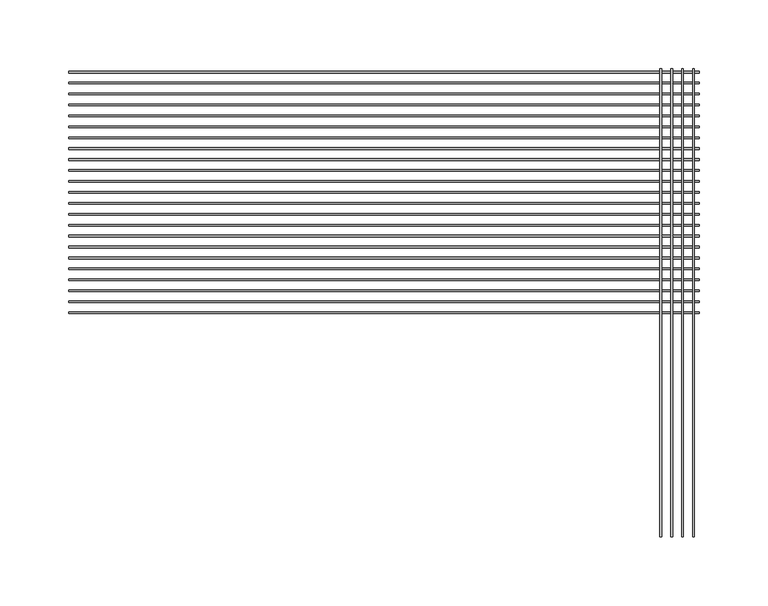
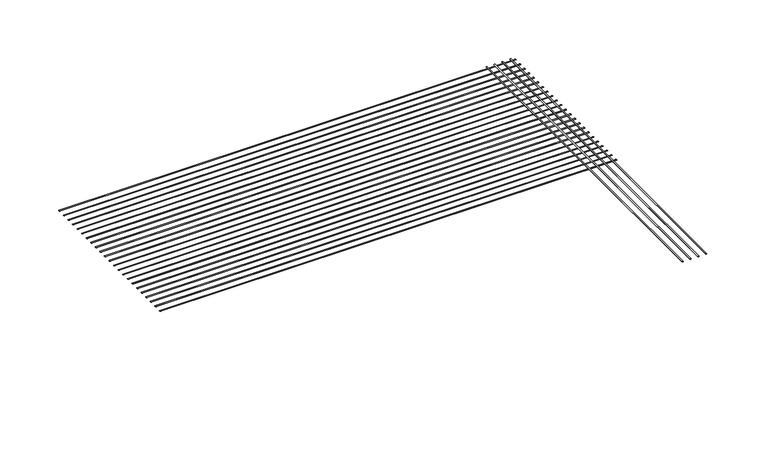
"""IFC4 building model written with IfcOpenShell, lengths in millimetres: proxy geometry, CRAi Generic Model Mesh Piece Face Based : Wider Mesh."""

from ifc_helpers import new_model, si_unit, point, frame, origin, place, context, project, spatial, ellipse_curve, trimmed, source, transform, mapped, element, save
from ifc_brep_helpers import plane_surface, extruded_surface, advanced_brep


def generic_models_8121e3b1(model_context):
    return source(origin(), model_context, "Body", "AdvancedBrep", [
        advanced_brep(
        [(200.2234375, -169.8625, -2.5796875), (201.4140625, -169.8625, -2.5796875), (200.2234375, 169.8625, -2.5796875), (201.4140625, 169.8625, -2.5796875)],
        [
            (0, 1, ellipse_curve(frame((200.81875, -169.8625, -2.5796875), z_axis=(0.0, -1.0, 0.0), x_axis=(1.0, 0.0, 0.0)), 0.5953125, 0.1984375)),
            (1, 0, ellipse_curve(frame((200.81875, -169.8625, -2.5796875), z_axis=(0.0, -1.0, 0.0), x_axis=(1.0, 0.0, 0.0)), 0.5953125, 0.1984375)),
            (2, 3, ellipse_curve(frame((200.81875, 169.8625, -2.5796875), z_axis=(0.0, 1.0, 0.0), x_axis=(1.0, 0.0, 0.0)), 0.5953125, 0.1984375)),
            (3, 2, ellipse_curve(frame((200.81875, 169.8625, -2.5796875), z_axis=(0.0, 1.0, 0.0), x_axis=(1.0, 0.0, 0.0)), 0.5953125, 0.1984375)),
            (0, 2),
            (3, 1),
        ],
        [
            plane_surface(frame((200.81875, -169.8625, -2.5796875), z_axis=(0.0, -1.0, 0.0), x_axis=(0.0, 0.0, 1.0))),
            plane_surface(frame((200.81875, 169.8625, -2.5796875), z_axis=(0.0, 1.0, 0.0), x_axis=(0.0, 0.0, 1.0))),
            extruded_surface(trimmed(ellipse_curve(frame((200.81875, 169.8625, -2.5796875), z_axis=(0.0, -1.0, 0.0), x_axis=(1.0, 0.0, 0.0)), 0.5953125, 0.1984375), [point((200.2234375, 169.8625, -2.5796875))], [point((201.4140625, 169.8625, -2.5796875))], True, "CARTESIAN"), (0.0, -339.725, 0.0), 339.725),
            extruded_surface(trimmed(ellipse_curve(frame((200.81875, 169.8625, -2.5796875), z_axis=(0.0, -1.0, 0.0), x_axis=(1.0, 0.0, 0.0)), 0.5953125, 0.1984375), [point((201.4140625, 169.8625, -2.5796875))], [point((200.2234375, 169.8625, -2.5796875))], True, "CARTESIAN"), (0.0, -339.725, 0.0), 339.725),
        ],
        [
            (0, [[1, 2]]),
            (1, [[3, 4]]),
            (2, [[-1, 5, -4, 6]]),
            (3, [[-2, -6, -3, -5]]),
        ],
    ),
        advanced_brep(
        [(208.1609375, -169.8625, -2.5796875), (209.3515625, -169.8625, -2.5796875), (208.1609375, 169.8625, -2.5796875), (209.3515625, 169.8625, -2.5796875)],
        [
            (0, 1, ellipse_curve(frame((208.75625, -169.8625, -2.5796875), z_axis=(0.0, -1.0, 0.0), x_axis=(1.0, 0.0, 0.0)), 0.5953125, 0.1984375)),
            (1, 0, ellipse_curve(frame((208.75625, -169.8625, -2.5796875), z_axis=(0.0, -1.0, 0.0), x_axis=(1.0, 0.0, 0.0)), 0.5953125, 0.1984375)),
            (2, 3, ellipse_curve(frame((208.75625, 169.8625, -2.5796875), z_axis=(0.0, 1.0, 0.0), x_axis=(1.0, 0.0, 0.0)), 0.5953125, 0.1984375)),
            (3, 2, ellipse_curve(frame((208.75625, 169.8625, -2.5796875), z_axis=(0.0, 1.0, 0.0), x_axis=(1.0, 0.0, 0.0)), 0.5953125, 0.1984375)),
            (0, 2),
            (3, 1),
        ],
        [
            plane_surface(frame((208.75625, -169.8625, -2.5796875), z_axis=(0.0, -1.0, 0.0), x_axis=(0.0, 0.0, 1.0))),
            plane_surface(frame((208.75625, 169.8625, -2.5796875), z_axis=(0.0, 1.0, 0.0), x_axis=(0.0, 0.0, 1.0))),
            extruded_surface(trimmed(ellipse_curve(frame((208.75625, 169.8625, -2.5796875), z_axis=(0.0, -1.0, 0.0), x_axis=(1.0, 0.0, 0.0)), 0.5953125, 0.1984375), [point((208.1609375, 169.8625, -2.5796875))], [point((209.3515625, 169.8625, -2.5796875))], True, "CARTESIAN"), (0.0, -339.725, 0.0), 339.725),
            extruded_surface(trimmed(ellipse_curve(frame((208.75625, 169.8625, -2.5796875), z_axis=(0.0, -1.0, 0.0), x_axis=(1.0, 0.0, 0.0)), 0.5953125, 0.1984375), [point((209.3515625, 169.8625, -2.5796875))], [point((208.1609375, 169.8625, -2.5796875))], True, "CARTESIAN"), (0.0, -339.725, 0.0), 339.725),
        ],
        [
            (0, [[1, 2]]),
            (1, [[3, 4]]),
            (2, [[-1, 5, -4, 6]]),
            (3, [[-2, -6, -3, -5]]),
        ],
    ),
        advanced_brep(
        [(216.0984375, -169.8625, -2.5796875), (217.2890625, -169.8625, -2.5796875), (216.0984375, 169.8625, -2.5796875), (217.2890625, 169.8625, -2.5796875)],
        [
            (0, 1, ellipse_curve(frame((216.69375, -169.8625, -2.5796875), z_axis=(0.0, -1.0, 0.0), x_axis=(1.0, 0.0, 0.0)), 0.5953125, 0.1984375)),
            (1, 0, ellipse_curve(frame((216.69375, -169.8625, -2.5796875), z_axis=(0.0, -1.0, 0.0), x_axis=(1.0, 0.0, 0.0)), 0.5953125, 0.1984375)),
            (2, 3, ellipse_curve(frame((216.69375, 169.8625, -2.5796875), z_axis=(0.0, 1.0, 0.0), x_axis=(1.0, 0.0, 0.0)), 0.5953125, 0.1984375)),
            (3, 2, ellipse_curve(frame((216.69375, 169.8625, -2.5796875), z_axis=(0.0, 1.0, 0.0), x_axis=(1.0, 0.0, 0.0)), 0.5953125, 0.1984375)),
            (0, 2),
            (3, 1),
        ],
        [
            plane_surface(frame((216.69375, -169.8625, -2.5796875), z_axis=(0.0, -1.0, 0.0), x_axis=(0.0, 0.0, 1.0))),
            plane_surface(frame((216.69375, 169.8625, -2.5796875), z_axis=(0.0, 1.0, 0.0), x_axis=(0.0, 0.0, 1.0))),
            extruded_surface(trimmed(ellipse_curve(frame((216.69375, 169.8625, -2.5796875), z_axis=(0.0, -1.0, 0.0), x_axis=(1.0, 0.0, 0.0)), 0.5953125, 0.1984375), [point((216.0984375, 169.8625, -2.5796875))], [point((217.2890625, 169.8625, -2.5796875))], True, "CARTESIAN"), (0.0, -339.725, 0.0), 339.725),
            extruded_surface(trimmed(ellipse_curve(frame((216.69375, 169.8625, -2.5796875), z_axis=(0.0, -1.0, 0.0), x_axis=(1.0, 0.0, 0.0)), 0.5953125, 0.1984375), [point((217.2890625, 169.8625, -2.5796875))], [point((216.0984375, 169.8625, -2.5796875))], True, "CARTESIAN"), (0.0, -339.725, 0.0), 339.725),
        ],
        [
            (0, [[1, 2]]),
            (1, [[3, 4]]),
            (2, [[-1, 5, -4, 6]]),
            (3, [[-2, -6, -3, -5]]),
        ],
    ),
        advanced_brep(
        [(224.0359375, -169.8625, -2.5796875), (225.2265625, -169.8625, -2.5796875), (224.0359375, 169.8625, -2.5796875), (225.2265625, 169.8625, -2.5796875)],
        [
            (0, 1, ellipse_curve(frame((224.63125, -169.8625, -2.5796875), z_axis=(0.0, -1.0, 0.0), x_axis=(1.0, 0.0, 0.0)), 0.5953125, 0.1984375)),
            (1, 0, ellipse_curve(frame((224.63125, -169.8625, -2.5796875), z_axis=(0.0, -1.0, 0.0), x_axis=(1.0, 0.0, 0.0)), 0.5953125, 0.1984375)),
            (2, 3, ellipse_curve(frame((224.63125, 169.8625, -2.5796875), z_axis=(0.0, 1.0, 0.0), x_axis=(1.0, 0.0, 0.0)), 0.5953125, 0.1984375)),
            (3, 2, ellipse_curve(frame((224.63125, 169.8625, -2.5796875), z_axis=(0.0, 1.0, 0.0), x_axis=(1.0, 0.0, 0.0)), 0.5953125, 0.1984375)),
            (0, 2),
            (3, 1),
        ],
        [
            plane_surface(frame((224.63125, -169.8625, -2.5796875), z_axis=(0.0, -1.0, 0.0), x_axis=(0.0, 0.0, 1.0))),
            plane_surface(frame((224.63125, 169.8625, -2.5796875), z_axis=(0.0, 1.0, 0.0), x_axis=(0.0, 0.0, 1.0))),
            extruded_surface(trimmed(ellipse_curve(frame((224.63125, 169.8625, -2.5796875), z_axis=(0.0, -1.0, 0.0), x_axis=(1.0, 0.0, 0.0)), 0.5953125, 0.1984375), [point((224.0359375, 169.8625, -2.5796875))], [point((225.2265625, 169.8625, -2.5796875))], True, "CARTESIAN"), (0.0, -339.725, 0.0), 339.725),
            extruded_surface(trimmed(ellipse_curve(frame((224.63125, 169.8625, -2.5796875), z_axis=(0.0, -1.0, 0.0), x_axis=(1.0, 0.0, 0.0)), 0.5953125, 0.1984375), [point((225.2265625, 169.8625, -2.5796875))], [point((224.0359375, 169.8625, -2.5796875))], True, "CARTESIAN"), (0.0, -339.725, 0.0), 339.725),
        ],
        [
            (0, [[1, 2]]),
            (1, [[3, 4]]),
            (2, [[-1, 5, -4, 6]]),
            (3, [[-2, -6, -3, -5]]),
        ],
    ),
        advanced_brep(
        [(-228.6, 168.0765625, -2.9765625), (-228.6, 166.8859375, -2.9765625), (228.6, 168.0765625, -2.9765625), (228.6, 166.8859375, -2.9765625)],
        [
            (0, 1, ellipse_curve(frame((-228.6, 167.48125, -2.9765625), z_axis=(-1.0, 0.0, 0.0), x_axis=(0.0, -1.0, 0.0)), 0.5953125, 0.1984375)),
            (1, 0, ellipse_curve(frame((-228.6, 167.48125, -2.9765625), z_axis=(-1.0, 0.0, 0.0), x_axis=(0.0, -1.0, 0.0)), 0.5953125, 0.1984375)),
            (2, 3, ellipse_curve(frame((228.6, 167.48125, -2.9765625), z_axis=(1.0, 0.0, 0.0), x_axis=(0.0, -1.0, 0.0)), 0.5953125, 0.1984375)),
            (3, 2, ellipse_curve(frame((228.6, 167.48125, -2.9765625), z_axis=(1.0, 0.0, 0.0), x_axis=(0.0, -1.0, 0.0)), 0.5953125, 0.1984375)),
            (0, 2),
            (3, 1),
        ],
        [
            plane_surface(frame((-228.6, 167.48125, -2.9765625), z_axis=(-1.0, 0.0, 0.0), x_axis=(0.0, 0.0, 1.0))),
            plane_surface(frame((228.6, 167.48125, -2.9765625), z_axis=(1.0, 0.0, 0.0), x_axis=(0.0, 0.0, 1.0))),
            extruded_surface(trimmed(ellipse_curve(frame((228.6, 167.48125, -2.9765625), z_axis=(-1.0, 0.0, 0.0), x_axis=(0.0, -1.0, 0.0)), 0.5953125, 0.1984375), [point((228.6, 168.0765625, -2.9765625))], [point((228.6, 166.8859375, -2.9765625))], True, "CARTESIAN"), (-457.2, 0.0, 0.0), 457.2),
            extruded_surface(trimmed(ellipse_curve(frame((228.6, 167.48125, -2.9765625), z_axis=(-1.0, 0.0, 0.0), x_axis=(0.0, -1.0, 0.0)), 0.5953125, 0.1984375), [point((228.6, 166.8859375, -2.9765625))], [point((228.6, 168.0765625, -2.9765625))], True, "CARTESIAN"), (-457.2, 0.0, 0.0), 457.2),
        ],
        [
            (0, [[1, 2]]),
            (1, [[3, 4]]),
            (2, [[-1, 5, -4, 6]]),
            (3, [[-2, -6, -3, -5]]),
        ],
    ),
        advanced_brep(
        [(-228.6, 160.1390625, -2.9765625), (-228.6, 158.9484375, -2.9765625), (228.6, 160.1390625, -2.9765625), (228.6, 158.9484375, -2.9765625)],
        [
            (0, 1, ellipse_curve(frame((-228.6, 159.54375, -2.9765625), z_axis=(-1.0, 0.0, 0.0), x_axis=(0.0, -1.0, 0.0)), 0.5953125, 0.1984375)),
            (1, 0, ellipse_curve(frame((-228.6, 159.54375, -2.9765625), z_axis=(-1.0, 0.0, 0.0), x_axis=(0.0, -1.0, 0.0)), 0.5953125, 0.1984375)),
            (2, 3, ellipse_curve(frame((228.6, 159.54375, -2.9765625), z_axis=(1.0, 0.0, 0.0), x_axis=(0.0, -1.0, 0.0)), 0.5953125, 0.1984375)),
            (3, 2, ellipse_curve(frame((228.6, 159.54375, -2.9765625), z_axis=(1.0, 0.0, 0.0), x_axis=(0.0, -1.0, 0.0)), 0.5953125, 0.1984375)),
            (0, 2),
            (3, 1),
        ],
        [
            plane_surface(frame((-228.6, 159.54375, -2.9765625), z_axis=(-1.0, 0.0, 0.0), x_axis=(0.0, 0.0, 1.0))),
            plane_surface(frame((228.6, 159.54375, -2.9765625), z_axis=(1.0, 0.0, 0.0), x_axis=(0.0, 0.0, 1.0))),
            extruded_surface(trimmed(ellipse_curve(frame((228.6, 159.54375, -2.9765625), z_axis=(-1.0, 0.0, 0.0), x_axis=(0.0, -1.0, 0.0)), 0.5953125, 0.1984375), [point((228.6, 160.1390625, -2.9765625))], [point((228.6, 158.9484375, -2.9765625))], True, "CARTESIAN"), (-457.2, 0.0, 0.0), 457.2),
            extruded_surface(trimmed(ellipse_curve(frame((228.6, 159.54375, -2.9765625), z_axis=(-1.0, 0.0, 0.0), x_axis=(0.0, -1.0, 0.0)), 0.5953125, 0.1984375), [point((228.6, 158.9484375, -2.9765625))], [point((228.6, 160.1390625, -2.9765625))], True, "CARTESIAN"), (-457.2, 0.0, 0.0), 457.2),
        ],
        [
            (0, [[1, 2]]),
            (1, [[3, 4]]),
            (2, [[-1, 5, -4, 6]]),
            (3, [[-2, -6, -3, -5]]),
        ],
    ),
        advanced_brep(
        [(-228.6, 152.2015625, -2.9765625), (-228.6, 151.0109375, -2.9765625), (228.6, 152.2015625, -2.9765625), (228.6, 151.0109375, -2.9765625)],
        [
            (0, 1, ellipse_curve(frame((-228.6, 151.60625, -2.9765625), z_axis=(-1.0, 0.0, 0.0), x_axis=(0.0, -1.0, 0.0)), 0.5953125, 0.1984375)),
            (1, 0, ellipse_curve(frame((-228.6, 151.60625, -2.9765625), z_axis=(-1.0, 0.0, 0.0), x_axis=(0.0, -1.0, 0.0)), 0.5953125, 0.1984375)),
            (2, 3, ellipse_curve(frame((228.6, 151.60625, -2.9765625), z_axis=(1.0, 0.0, 0.0), x_axis=(0.0, -1.0, 0.0)), 0.5953125, 0.1984375)),
            (3, 2, ellipse_curve(frame((228.6, 151.60625, -2.9765625), z_axis=(1.0, 0.0, 0.0), x_axis=(0.0, -1.0, 0.0)), 0.5953125, 0.1984375)),
            (0, 2),
            (3, 1),
        ],
        [
            plane_surface(frame((-228.6, 151.60625, -2.9765625), z_axis=(-1.0, 0.0, 0.0), x_axis=(0.0, 0.0, 1.0))),
            plane_surface(frame((228.6, 151.60625, -2.9765625), z_axis=(1.0, 0.0, 0.0), x_axis=(0.0, 0.0, 1.0))),
            extruded_surface(trimmed(ellipse_curve(frame((228.6, 151.60625, -2.9765625), z_axis=(-1.0, 0.0, 0.0), x_axis=(0.0, -1.0, 0.0)), 0.5953125, 0.1984375), [point((228.6, 152.2015625, -2.9765625))], [point((228.6, 151.0109375, -2.9765625))], True, "CARTESIAN"), (-457.2, 0.0, 0.0), 457.2),
            extruded_surface(trimmed(ellipse_curve(frame((228.6, 151.60625, -2.9765625), z_axis=(-1.0, 0.0, 0.0), x_axis=(0.0, -1.0, 0.0)), 0.5953125, 0.1984375), [point((228.6, 151.0109375, -2.9765625))], [point((228.6, 152.2015625, -2.9765625))], True, "CARTESIAN"), (-457.2, 0.0, 0.0), 457.2),
        ],
        [
            (0, [[1, 2]]),
            (1, [[3, 4]]),
            (2, [[-1, 5, -4, 6]]),
            (3, [[-2, -6, -3, -5]]),
        ],
    ),
        advanced_brep(
        [(-228.6, 144.2640625, -2.9765625), (-228.6, 143.0734375, -2.9765625), (228.6, 144.2640625, -2.9765625), (228.6, 143.0734375, -2.9765625)],
        [
            (0, 1, ellipse_curve(frame((-228.6, 143.66875, -2.9765625), z_axis=(-1.0, 0.0, 0.0), x_axis=(0.0, -1.0, 0.0)), 0.5953125, 0.1984375)),
            (1, 0, ellipse_curve(frame((-228.6, 143.66875, -2.9765625), z_axis=(-1.0, 0.0, 0.0), x_axis=(0.0, -1.0, 0.0)), 0.5953125, 0.1984375)),
            (2, 3, ellipse_curve(frame((228.6, 143.66875, -2.9765625), z_axis=(1.0, 0.0, 0.0), x_axis=(0.0, -1.0, 0.0)), 0.5953125, 0.1984375)),
            (3, 2, ellipse_curve(frame((228.6, 143.66875, -2.9765625), z_axis=(1.0, 0.0, 0.0), x_axis=(0.0, -1.0, 0.0)), 0.5953125, 0.1984375)),
            (0, 2),
            (3, 1),
        ],
        [
            plane_surface(frame((-228.6, 143.66875, -2.9765625), z_axis=(-1.0, 0.0, 0.0), x_axis=(0.0, 0.0, 1.0))),
            plane_surface(frame((228.6, 143.66875, -2.9765625), z_axis=(1.0, 0.0, 0.0), x_axis=(0.0, 0.0, 1.0))),
            extruded_surface(trimmed(ellipse_curve(frame((228.6, 143.66875, -2.9765625), z_axis=(-1.0, 0.0, 0.0), x_axis=(0.0, -1.0, 0.0)), 0.5953125, 0.1984375), [point((228.6, 144.2640625, -2.9765625))], [point((228.6, 143.0734375, -2.9765625))], True, "CARTESIAN"), (-457.2, 0.0, 0.0), 457.2),
            extruded_surface(trimmed(ellipse_curve(frame((228.6, 143.66875, -2.9765625), z_axis=(-1.0, 0.0, 0.0), x_axis=(0.0, -1.0, 0.0)), 0.5953125, 0.1984375), [point((228.6, 143.0734375, -2.9765625))], [point((228.6, 144.2640625, -2.9765625))], True, "CARTESIAN"), (-457.2, 0.0, 0.0), 457.2),
        ],
        [
            (0, [[1, 2]]),
            (1, [[3, 4]]),
            (2, [[-1, 5, -4, 6]]),
            (3, [[-2, -6, -3, -5]]),
        ],
    ),
        advanced_brep(
        [(-228.6, 136.3265625, -2.9765625), (-228.6, 135.1359375, -2.9765625), (228.6, 136.3265625, -2.9765625), (228.6, 135.1359375, -2.9765625)],
        [
            (0, 1, ellipse_curve(frame((-228.6, 135.73125, -2.9765625), z_axis=(-1.0, 0.0, 0.0), x_axis=(0.0, -1.0, 0.0)), 0.5953125, 0.1984375)),
            (1, 0, ellipse_curve(frame((-228.6, 135.73125, -2.9765625), z_axis=(-1.0, 0.0, 0.0), x_axis=(0.0, -1.0, 0.0)), 0.5953125, 0.1984375)),
            (2, 3, ellipse_curve(frame((228.6, 135.73125, -2.9765625), z_axis=(1.0, 0.0, 0.0), x_axis=(0.0, -1.0, 0.0)), 0.5953125, 0.1984375)),
            (3, 2, ellipse_curve(frame((228.6, 135.73125, -2.9765625), z_axis=(1.0, 0.0, 0.0), x_axis=(0.0, -1.0, 0.0)), 0.5953125, 0.1984375)),
            (0, 2),
            (3, 1),
        ],
        [
            plane_surface(frame((-228.6, 135.73125, -2.9765625), z_axis=(-1.0, 0.0, 0.0), x_axis=(0.0, 0.0, 1.0))),
            plane_surface(frame((228.6, 135.73125, -2.9765625), z_axis=(1.0, 0.0, 0.0), x_axis=(0.0, 0.0, 1.0))),
            extruded_surface(trimmed(ellipse_curve(frame((228.6, 135.73125, -2.9765625), z_axis=(-1.0, 0.0, 0.0), x_axis=(0.0, -1.0, 0.0)), 0.5953125, 0.1984375), [point((228.6, 136.3265625, -2.9765625))], [point((228.6, 135.1359375, -2.9765625))], True, "CARTESIAN"), (-457.2, 0.0, 0.0), 457.2),
            extruded_surface(trimmed(ellipse_curve(frame((228.6, 135.73125, -2.9765625), z_axis=(-1.0, 0.0, 0.0), x_axis=(0.0, -1.0, 0.0)), 0.5953125, 0.1984375), [point((228.6, 135.1359375, -2.9765625))], [point((228.6, 136.3265625, -2.9765625))], True, "CARTESIAN"), (-457.2, 0.0, 0.0), 457.2),
        ],
        [
            (0, [[1, 2]]),
            (1, [[3, 4]]),
            (2, [[-1, 5, -4, 6]]),
            (3, [[-2, -6, -3, -5]]),
        ],
    ),
        advanced_brep(
        [(-228.6, 128.3890625, -2.9765625), (-228.6, 127.1984375, -2.9765625), (228.6, 128.3890625, -2.9765625), (228.6, 127.1984375, -2.9765625)],
        [
            (0, 1, ellipse_curve(frame((-228.6, 127.79375, -2.9765625), z_axis=(-1.0, 0.0, 0.0), x_axis=(0.0, -1.0, 0.0)), 0.5953125, 0.1984375)),
            (1, 0, ellipse_curve(frame((-228.6, 127.79375, -2.9765625), z_axis=(-1.0, 0.0, 0.0), x_axis=(0.0, -1.0, 0.0)), 0.5953125, 0.1984375)),
            (2, 3, ellipse_curve(frame((228.6, 127.79375, -2.9765625), z_axis=(1.0, 0.0, 0.0), x_axis=(0.0, -1.0, 0.0)), 0.5953125, 0.1984375)),
            (3, 2, ellipse_curve(frame((228.6, 127.79375, -2.9765625), z_axis=(1.0, 0.0, 0.0), x_axis=(0.0, -1.0, 0.0)), 0.5953125, 0.1984375)),
            (0, 2),
            (3, 1),
        ],
        [
            plane_surface(frame((-228.6, 127.79375, -2.9765625), z_axis=(-1.0, 0.0, 0.0), x_axis=(0.0, 0.0, 1.0))),
            plane_surface(frame((228.6, 127.79375, -2.9765625), z_axis=(1.0, 0.0, 0.0), x_axis=(0.0, 0.0, 1.0))),
            extruded_surface(trimmed(ellipse_curve(frame((228.6, 127.79375, -2.9765625), z_axis=(-1.0, 0.0, 0.0), x_axis=(0.0, -1.0, 0.0)), 0.5953125, 0.1984375), [point((228.6, 128.3890625, -2.9765625))], [point((228.6, 127.1984375, -2.9765625))], True, "CARTESIAN"), (-457.2, 0.0, 0.0), 457.2),
            extruded_surface(trimmed(ellipse_curve(frame((228.6, 127.79375, -2.9765625), z_axis=(-1.0, 0.0, 0.0), x_axis=(0.0, -1.0, 0.0)), 0.5953125, 0.1984375), [point((228.6, 127.1984375, -2.9765625))], [point((228.6, 128.3890625, -2.9765625))], True, "CARTESIAN"), (-457.2, 0.0, 0.0), 457.2),
        ],
        [
            (0, [[1, 2]]),
            (1, [[3, 4]]),
            (2, [[-1, 5, -4, 6]]),
            (3, [[-2, -6, -3, -5]]),
        ],
    ),
        advanced_brep(
        [(-228.6, 120.4515625, -2.9765625), (-228.6, 119.2609375, -2.9765625), (228.6, 120.4515625, -2.9765625), (228.6, 119.2609375, -2.9765625)],
        [
            (0, 1, ellipse_curve(frame((-228.6, 119.85625, -2.9765625), z_axis=(-1.0, 0.0, 0.0), x_axis=(0.0, -1.0, 0.0)), 0.5953125, 0.1984375)),
            (1, 0, ellipse_curve(frame((-228.6, 119.85625, -2.9765625), z_axis=(-1.0, 0.0, 0.0), x_axis=(0.0, -1.0, 0.0)), 0.5953125, 0.1984375)),
            (2, 3, ellipse_curve(frame((228.6, 119.85625, -2.9765625), z_axis=(1.0, 0.0, 0.0), x_axis=(0.0, -1.0, 0.0)), 0.5953125, 0.1984375)),
            (3, 2, ellipse_curve(frame((228.6, 119.85625, -2.9765625), z_axis=(1.0, 0.0, 0.0), x_axis=(0.0, -1.0, 0.0)), 0.5953125, 0.1984375)),
            (0, 2),
            (3, 1),
        ],
        [
            plane_surface(frame((-228.6, 119.85625, -2.9765625), z_axis=(-1.0, 0.0, 0.0), x_axis=(0.0, 0.0, 1.0))),
            plane_surface(frame((228.6, 119.85625, -2.9765625), z_axis=(1.0, 0.0, 0.0), x_axis=(0.0, 0.0, 1.0))),
            extruded_surface(trimmed(ellipse_curve(frame((228.6, 119.85625, -2.9765625), z_axis=(-1.0, 0.0, 0.0), x_axis=(0.0, -1.0, 0.0)), 0.5953125, 0.1984375), [point((228.6, 120.4515625, -2.9765625))], [point((228.6, 119.2609375, -2.9765625))], True, "CARTESIAN"), (-457.2, 0.0, 0.0), 457.2),
            extruded_surface(trimmed(ellipse_curve(frame((228.6, 119.85625, -2.9765625), z_axis=(-1.0, 0.0, 0.0), x_axis=(0.0, -1.0, 0.0)), 0.5953125, 0.1984375), [point((228.6, 119.2609375, -2.9765625))], [point((228.6, 120.4515625, -2.9765625))], True, "CARTESIAN"), (-457.2, 0.0, 0.0), 457.2),
        ],
        [
            (0, [[1, 2]]),
            (1, [[3, 4]]),
            (2, [[-1, 5, -4, 6]]),
            (3, [[-2, -6, -3, -5]]),
        ],
    ),
        advanced_brep(
        [(-228.6, 112.5140625, -2.9765625), (-228.6, 111.3234375, -2.9765625), (228.6, 112.5140625, -2.9765625), (228.6, 111.3234375, -2.9765625)],
        [
            (0, 1, ellipse_curve(frame((-228.6, 111.91875, -2.9765625), z_axis=(-1.0, 0.0, 0.0), x_axis=(0.0, -1.0, 0.0)), 0.5953125, 0.1984375)),
            (1, 0, ellipse_curve(frame((-228.6, 111.91875, -2.9765625), z_axis=(-1.0, 0.0, 0.0), x_axis=(0.0, -1.0, 0.0)), 0.5953125, 0.1984375)),
            (2, 3, ellipse_curve(frame((228.6, 111.91875, -2.9765625), z_axis=(1.0, 0.0, 0.0), x_axis=(0.0, -1.0, 0.0)), 0.5953125, 0.1984375)),
            (3, 2, ellipse_curve(frame((228.6, 111.91875, -2.9765625), z_axis=(1.0, 0.0, 0.0), x_axis=(0.0, -1.0, 0.0)), 0.5953125, 0.1984375)),
            (0, 2),
            (3, 1),
        ],
        [
            plane_surface(frame((-228.6, 111.91875, -2.9765625), z_axis=(-1.0, 0.0, 0.0), x_axis=(0.0, 0.0, 1.0))),
            plane_surface(frame((228.6, 111.91875, -2.9765625), z_axis=(1.0, 0.0, 0.0), x_axis=(0.0, 0.0, 1.0))),
            extruded_surface(trimmed(ellipse_curve(frame((228.6, 111.91875, -2.9765625), z_axis=(-1.0, 0.0, 0.0), x_axis=(0.0, -1.0, 0.0)), 0.5953125, 0.1984375), [point((228.6, 112.5140625, -2.9765625))], [point((228.6, 111.3234375, -2.9765625))], True, "CARTESIAN"), (-457.2, 0.0, 0.0), 457.2),
            extruded_surface(trimmed(ellipse_curve(frame((228.6, 111.91875, -2.9765625), z_axis=(-1.0, 0.0, 0.0), x_axis=(0.0, -1.0, 0.0)), 0.5953125, 0.1984375), [point((228.6, 111.3234375, -2.9765625))], [point((228.6, 112.5140625, -2.9765625))], True, "CARTESIAN"), (-457.2, 0.0, 0.0), 457.2),
        ],
        [
            (0, [[1, 2]]),
            (1, [[3, 4]]),
            (2, [[-1, 5, -4, 6]]),
            (3, [[-2, -6, -3, -5]]),
        ],
    ),
        advanced_brep(
        [(-228.6, 104.5765625, -2.9765625), (-228.6, 103.3859375, -2.9765625), (228.6, 104.5765625, -2.9765625), (228.6, 103.3859375, -2.9765625)],
        [
            (0, 1, ellipse_curve(frame((-228.6, 103.98125, -2.9765625), z_axis=(-1.0, 0.0, 0.0), x_axis=(0.0, -1.0, 0.0)), 0.5953125, 0.1984375)),
            (1, 0, ellipse_curve(frame((-228.6, 103.98125, -2.9765625), z_axis=(-1.0, 0.0, 0.0), x_axis=(0.0, -1.0, 0.0)), 0.5953125, 0.1984375)),
            (2, 3, ellipse_curve(frame((228.6, 103.98125, -2.9765625), z_axis=(1.0, 0.0, 0.0), x_axis=(0.0, -1.0, 0.0)), 0.5953125, 0.1984375)),
            (3, 2, ellipse_curve(frame((228.6, 103.98125, -2.9765625), z_axis=(1.0, 0.0, 0.0), x_axis=(0.0, -1.0, 0.0)), 0.5953125, 0.1984375)),
            (0, 2),
            (3, 1),
        ],
        [
            plane_surface(frame((-228.6, 103.98125, -2.9765625), z_axis=(-1.0, 0.0, 0.0), x_axis=(0.0, 0.0, 1.0))),
            plane_surface(frame((228.6, 103.98125, -2.9765625), z_axis=(1.0, 0.0, 0.0), x_axis=(0.0, 0.0, 1.0))),
            extruded_surface(trimmed(ellipse_curve(frame((228.6, 103.98125, -2.9765625), z_axis=(-1.0, 0.0, 0.0), x_axis=(0.0, -1.0, 0.0)), 0.5953125, 0.1984375), [point((228.6, 104.5765625, -2.9765625))], [point((228.6, 103.3859375, -2.9765625))], True, "CARTESIAN"), (-457.2, 0.0, 0.0), 457.2),
            extruded_surface(trimmed(ellipse_curve(frame((228.6, 103.98125, -2.9765625), z_axis=(-1.0, 0.0, 0.0), x_axis=(0.0, -1.0, 0.0)), 0.5953125, 0.1984375), [point((228.6, 103.3859375, -2.9765625))], [point((228.6, 104.5765625, -2.9765625))], True, "CARTESIAN"), (-457.2, 0.0, 0.0), 457.2),
        ],
        [
            (0, [[1, 2]]),
            (1, [[3, 4]]),
            (2, [[-1, 5, -4, 6]]),
            (3, [[-2, -6, -3, -5]]),
        ],
    ),
        advanced_brep(
        [(-228.6, 96.6390625, -2.9765625), (-228.6, 95.4484375, -2.9765625), (228.6, 96.6390625, -2.9765625), (228.6, 95.4484375, -2.9765625)],
        [
            (0, 1, ellipse_curve(frame((-228.6, 96.04375, -2.9765625), z_axis=(-1.0, 0.0, 0.0), x_axis=(0.0, -1.0, 0.0)), 0.5953125, 0.1984375)),
            (1, 0, ellipse_curve(frame((-228.6, 96.04375, -2.9765625), z_axis=(-1.0, 0.0, 0.0), x_axis=(0.0, -1.0, 0.0)), 0.5953125, 0.1984375)),
            (2, 3, ellipse_curve(frame((228.6, 96.04375, -2.9765625), z_axis=(1.0, 0.0, 0.0), x_axis=(0.0, -1.0, 0.0)), 0.5953125, 0.1984375)),
            (3, 2, ellipse_curve(frame((228.6, 96.04375, -2.9765625), z_axis=(1.0, 0.0, 0.0), x_axis=(0.0, -1.0, 0.0)), 0.5953125, 0.1984375)),
            (0, 2),
            (3, 1),
        ],
        [
            plane_surface(frame((-228.6, 96.04375, -2.9765625), z_axis=(-1.0, 0.0, 0.0), x_axis=(0.0, 0.0, 1.0))),
            plane_surface(frame((228.6, 96.04375, -2.9765625), z_axis=(1.0, 0.0, 0.0), x_axis=(0.0, 0.0, 1.0))),
            extruded_surface(trimmed(ellipse_curve(frame((228.6, 96.04375, -2.9765625), z_axis=(-1.0, 0.0, 0.0), x_axis=(0.0, -1.0, 0.0)), 0.5953125, 0.1984375), [point((228.6, 96.6390625, -2.9765625))], [point((228.6, 95.4484375, -2.9765625))], True, "CARTESIAN"), (-457.2, 0.0, 0.0), 457.2),
            extruded_surface(trimmed(ellipse_curve(frame((228.6, 96.04375, -2.9765625), z_axis=(-1.0, 0.0, 0.0), x_axis=(0.0, -1.0, 0.0)), 0.5953125, 0.1984375), [point((228.6, 95.4484375, -2.9765625))], [point((228.6, 96.6390625, -2.9765625))], True, "CARTESIAN"), (-457.2, 0.0, 0.0), 457.2),
        ],
        [
            (0, [[1, 2]]),
            (1, [[3, 4]]),
            (2, [[-1, 5, -4, 6]]),
            (3, [[-2, -6, -3, -5]]),
        ],
    ),
        advanced_brep(
        [(-228.6, 88.7015625, -2.9765625), (-228.6, 87.5109375, -2.9765625), (228.6, 88.7015625, -2.9765625), (228.6, 87.5109375, -2.9765625)],
        [
            (0, 1, ellipse_curve(frame((-228.6, 88.10625, -2.9765625), z_axis=(-1.0, 0.0, 0.0), x_axis=(0.0, -1.0, 0.0)), 0.5953125, 0.1984375)),
            (1, 0, ellipse_curve(frame((-228.6, 88.10625, -2.9765625), z_axis=(-1.0, 0.0, 0.0), x_axis=(0.0, -1.0, 0.0)), 0.5953125, 0.1984375)),
            (2, 3, ellipse_curve(frame((228.6, 88.10625, -2.9765625), z_axis=(1.0, 0.0, 0.0), x_axis=(0.0, -1.0, 0.0)), 0.5953125, 0.1984375)),
            (3, 2, ellipse_curve(frame((228.6, 88.10625, -2.9765625), z_axis=(1.0, 0.0, 0.0), x_axis=(0.0, -1.0, 0.0)), 0.5953125, 0.1984375)),
            (0, 2),
            (3, 1),
        ],
        [
            plane_surface(frame((-228.6, 88.10625, -2.9765625), z_axis=(-1.0, 0.0, 0.0), x_axis=(0.0, 0.0, 1.0))),
            plane_surface(frame((228.6, 88.10625, -2.9765625), z_axis=(1.0, 0.0, 0.0), x_axis=(0.0, 0.0, 1.0))),
            extruded_surface(trimmed(ellipse_curve(frame((228.6, 88.10625, -2.9765625), z_axis=(-1.0, 0.0, 0.0), x_axis=(0.0, -1.0, 0.0)), 0.5953125, 0.1984375), [point((228.6, 88.7015625, -2.9765625))], [point((228.6, 87.5109375, -2.9765625))], True, "CARTESIAN"), (-457.2, 0.0, 0.0), 457.2),
            extruded_surface(trimmed(ellipse_curve(frame((228.6, 88.10625, -2.9765625), z_axis=(-1.0, 0.0, 0.0), x_axis=(0.0, -1.0, 0.0)), 0.5953125, 0.1984375), [point((228.6, 87.5109375, -2.9765625))], [point((228.6, 88.7015625, -2.9765625))], True, "CARTESIAN"), (-457.2, 0.0, 0.0), 457.2),
        ],
        [
            (0, [[1, 2]]),
            (1, [[3, 4]]),
            (2, [[-1, 5, -4, 6]]),
            (3, [[-2, -6, -3, -5]]),
        ],
    ),
        advanced_brep(
        [(-228.6, 80.7640625, -2.9765625), (-228.6, 79.5734375, -2.9765625), (228.6, 80.7640625, -2.9765625), (228.6, 79.5734375, -2.9765625)],
        [
            (0, 1, ellipse_curve(frame((-228.6, 80.16875, -2.9765625), z_axis=(-1.0, 0.0, 0.0), x_axis=(0.0, -1.0, 0.0)), 0.5953125, 0.1984375)),
            (1, 0, ellipse_curve(frame((-228.6, 80.16875, -2.9765625), z_axis=(-1.0, 0.0, 0.0), x_axis=(0.0, -1.0, 0.0)), 0.5953125, 0.1984375)),
            (2, 3, ellipse_curve(frame((228.6, 80.16875, -2.9765625), z_axis=(1.0, 0.0, 0.0), x_axis=(0.0, -1.0, 0.0)), 0.5953125, 0.1984375)),
            (3, 2, ellipse_curve(frame((228.6, 80.16875, -2.9765625), z_axis=(1.0, 0.0, 0.0), x_axis=(0.0, -1.0, 0.0)), 0.5953125, 0.1984375)),
            (0, 2),
            (3, 1),
        ],
        [
            plane_surface(frame((-228.6, 80.16875, -2.9765625), z_axis=(-1.0, 0.0, 0.0), x_axis=(0.0, 0.0, 1.0))),
            plane_surface(frame((228.6, 80.16875, -2.9765625), z_axis=(1.0, 0.0, 0.0), x_axis=(0.0, 0.0, 1.0))),
            extruded_surface(trimmed(ellipse_curve(frame((228.6, 80.16875, -2.9765625), z_axis=(-1.0, 0.0, 0.0), x_axis=(0.0, -1.0, 0.0)), 0.5953125, 0.1984375), [point((228.6, 80.7640625, -2.9765625))], [point((228.6, 79.5734375, -2.9765625))], True, "CARTESIAN"), (-457.2, 0.0, 0.0), 457.2),
            extruded_surface(trimmed(ellipse_curve(frame((228.6, 80.16875, -2.9765625), z_axis=(-1.0, 0.0, 0.0), x_axis=(0.0, -1.0, 0.0)), 0.5953125, 0.1984375), [point((228.6, 79.5734375, -2.9765625))], [point((228.6, 80.7640625, -2.9765625))], True, "CARTESIAN"), (-457.2, 0.0, 0.0), 457.2),
        ],
        [
            (0, [[1, 2]]),
            (1, [[3, 4]]),
            (2, [[-1, 5, -4, 6]]),
            (3, [[-2, -6, -3, -5]]),
        ],
    ),
        advanced_brep(
        [(-228.6, 72.8265625, -2.9765625), (-228.6, 71.6359375, -2.9765625), (228.6, 72.8265625, -2.9765625), (228.6, 71.6359375, -2.9765625)],
        [
            (0, 1, ellipse_curve(frame((-228.6, 72.23125, -2.9765625), z_axis=(-1.0, 0.0, 0.0), x_axis=(0.0, -1.0, 0.0)), 0.5953125, 0.1984375)),
            (1, 0, ellipse_curve(frame((-228.6, 72.23125, -2.9765625), z_axis=(-1.0, 0.0, 0.0), x_axis=(0.0, -1.0, 0.0)), 0.5953125, 0.1984375)),
            (2, 3, ellipse_curve(frame((228.6, 72.23125, -2.9765625), z_axis=(1.0, 0.0, 0.0), x_axis=(0.0, -1.0, 0.0)), 0.5953125, 0.1984375)),
            (3, 2, ellipse_curve(frame((228.6, 72.23125, -2.9765625), z_axis=(1.0, 0.0, 0.0), x_axis=(0.0, -1.0, 0.0)), 0.5953125, 0.1984375)),
            (0, 2),
            (3, 1),
        ],
        [
            plane_surface(frame((-228.6, 72.23125, -2.9765625), z_axis=(-1.0, 0.0, 0.0), x_axis=(0.0, 0.0, 1.0))),
            plane_surface(frame((228.6, 72.23125, -2.9765625), z_axis=(1.0, 0.0, 0.0), x_axis=(0.0, 0.0, 1.0))),
            extruded_surface(trimmed(ellipse_curve(frame((228.6, 72.23125, -2.9765625), z_axis=(-1.0, 0.0, 0.0), x_axis=(0.0, -1.0, 0.0)), 0.5953125, 0.1984375), [point((228.6, 72.8265625, -2.9765625))], [point((228.6, 71.6359375, -2.9765625))], True, "CARTESIAN"), (-457.2, 0.0, 0.0), 457.2),
            extruded_surface(trimmed(ellipse_curve(frame((228.6, 72.23125, -2.9765625), z_axis=(-1.0, 0.0, 0.0), x_axis=(0.0, -1.0, 0.0)), 0.5953125, 0.1984375), [point((228.6, 71.6359375, -2.9765625))], [point((228.6, 72.8265625, -2.9765625))], True, "CARTESIAN"), (-457.2, 0.0, 0.0), 457.2),
        ],
        [
            (0, [[1, 2]]),
            (1, [[3, 4]]),
            (2, [[-1, 5, -4, 6]]),
            (3, [[-2, -6, -3, -5]]),
        ],
    ),
        advanced_brep(
        [(-228.6, 64.8890625, -2.9765625), (-228.6, 63.6984375, -2.9765625), (228.6, 64.8890625, -2.9765625), (228.6, 63.6984375, -2.9765625)],
        [
            (0, 1, ellipse_curve(frame((-228.6, 64.29375, -2.9765625), z_axis=(-1.0, 0.0, 0.0), x_axis=(0.0, -1.0, 0.0)), 0.5953125, 0.1984375)),
            (1, 0, ellipse_curve(frame((-228.6, 64.29375, -2.9765625), z_axis=(-1.0, 0.0, 0.0), x_axis=(0.0, -1.0, 0.0)), 0.5953125, 0.1984375)),
            (2, 3, ellipse_curve(frame((228.6, 64.29375, -2.9765625), z_axis=(1.0, 0.0, 0.0), x_axis=(0.0, -1.0, 0.0)), 0.5953125, 0.1984375)),
            (3, 2, ellipse_curve(frame((228.6, 64.29375, -2.9765625), z_axis=(1.0, 0.0, 0.0), x_axis=(0.0, -1.0, 0.0)), 0.5953125, 0.1984375)),
            (0, 2),
            (3, 1),
        ],
        [
            plane_surface(frame((-228.6, 64.29375, -2.9765625), z_axis=(-1.0, 0.0, 0.0), x_axis=(0.0, 0.0, 1.0))),
            plane_surface(frame((228.6, 64.29375, -2.9765625), z_axis=(1.0, 0.0, 0.0), x_axis=(0.0, 0.0, 1.0))),
            extruded_surface(trimmed(ellipse_curve(frame((228.6, 64.29375, -2.9765625), z_axis=(-1.0, 0.0, 0.0), x_axis=(0.0, -1.0, 0.0)), 0.5953125, 0.1984375), [point((228.6, 64.8890625, -2.9765625))], [point((228.6, 63.6984375, -2.9765625))], True, "CARTESIAN"), (-457.2, 0.0, 0.0), 457.2),
            extruded_surface(trimmed(ellipse_curve(frame((228.6, 64.29375, -2.9765625), z_axis=(-1.0, 0.0, 0.0), x_axis=(0.0, -1.0, 0.0)), 0.5953125, 0.1984375), [point((228.6, 63.6984375, -2.9765625))], [point((228.6, 64.8890625, -2.9765625))], True, "CARTESIAN"), (-457.2, 0.0, 0.0), 457.2),
        ],
        [
            (0, [[1, 2]]),
            (1, [[3, 4]]),
            (2, [[-1, 5, -4, 6]]),
            (3, [[-2, -6, -3, -5]]),
        ],
    ),
        advanced_brep(
        [(-228.6, 56.9515625, -2.9765625), (-228.6, 55.7609375, -2.9765625), (228.6, 56.9515625, -2.9765625), (228.6, 55.7609375, -2.9765625)],
        [
            (0, 1, ellipse_curve(frame((-228.6, 56.35625, -2.9765625), z_axis=(-1.0, 0.0, 0.0), x_axis=(0.0, -1.0, 0.0)), 0.5953125, 0.1984375)),
            (1, 0, ellipse_curve(frame((-228.6, 56.35625, -2.9765625), z_axis=(-1.0, 0.0, 0.0), x_axis=(0.0, -1.0, 0.0)), 0.5953125, 0.1984375)),
            (2, 3, ellipse_curve(frame((228.6, 56.35625, -2.9765625), z_axis=(1.0, 0.0, 0.0), x_axis=(0.0, -1.0, 0.0)), 0.5953125, 0.1984375)),
            (3, 2, ellipse_curve(frame((228.6, 56.35625, -2.9765625), z_axis=(1.0, 0.0, 0.0), x_axis=(0.0, -1.0, 0.0)), 0.5953125, 0.1984375)),
            (0, 2),
            (3, 1),
        ],
        [
            plane_surface(frame((-228.6, 56.35625, -2.9765625), z_axis=(-1.0, 0.0, 0.0), x_axis=(0.0, 0.0, 1.0))),
            plane_surface(frame((228.6, 56.35625, -2.9765625), z_axis=(1.0, 0.0, 0.0), x_axis=(0.0, 0.0, 1.0))),
            extruded_surface(trimmed(ellipse_curve(frame((228.6, 56.35625, -2.9765625), z_axis=(-1.0, 0.0, 0.0), x_axis=(0.0, -1.0, 0.0)), 0.5953125, 0.1984375), [point((228.6, 56.9515625, -2.9765625))], [point((228.6, 55.7609375, -2.9765625))], True, "CARTESIAN"), (-457.2, 0.0, 0.0), 457.2),
            extruded_surface(trimmed(ellipse_curve(frame((228.6, 56.35625, -2.9765625), z_axis=(-1.0, 0.0, 0.0), x_axis=(0.0, -1.0, 0.0)), 0.5953125, 0.1984375), [point((228.6, 55.7609375, -2.9765625))], [point((228.6, 56.9515625, -2.9765625))], True, "CARTESIAN"), (-457.2, 0.0, 0.0), 457.2),
        ],
        [
            (0, [[1, 2]]),
            (1, [[3, 4]]),
            (2, [[-1, 5, -4, 6]]),
            (3, [[-2, -6, -3, -5]]),
        ],
    ),
        advanced_brep(
        [(-228.6, 49.0140625, -2.9765625), (-228.6, 47.8234375, -2.9765625), (228.6, 49.0140625, -2.9765625), (228.6, 47.8234375, -2.9765625)],
        [
            (0, 1, ellipse_curve(frame((-228.6, 48.41875, -2.9765625), z_axis=(-1.0, 0.0, 0.0), x_axis=(0.0, -1.0, 0.0)), 0.5953125, 0.1984375)),
            (1, 0, ellipse_curve(frame((-228.6, 48.41875, -2.9765625), z_axis=(-1.0, 0.0, 0.0), x_axis=(0.0, -1.0, 0.0)), 0.5953125, 0.1984375)),
            (2, 3, ellipse_curve(frame((228.6, 48.41875, -2.9765625), z_axis=(1.0, 0.0, 0.0), x_axis=(0.0, -1.0, 0.0)), 0.5953125, 0.1984375)),
            (3, 2, ellipse_curve(frame((228.6, 48.41875, -2.9765625), z_axis=(1.0, 0.0, 0.0), x_axis=(0.0, -1.0, 0.0)), 0.5953125, 0.1984375)),
            (0, 2),
            (3, 1),
        ],
        [
            plane_surface(frame((-228.6, 48.41875, -2.9765625), z_axis=(-1.0, 0.0, 0.0), x_axis=(0.0, 0.0, 1.0))),
            plane_surface(frame((228.6, 48.41875, -2.9765625), z_axis=(1.0, 0.0, 0.0), x_axis=(0.0, 0.0, 1.0))),
            extruded_surface(trimmed(ellipse_curve(frame((228.6, 48.41875, -2.9765625), z_axis=(-1.0, 0.0, 0.0), x_axis=(0.0, -1.0, 0.0)), 0.5953125, 0.1984375), [point((228.6, 49.0140625, -2.9765625))], [point((228.6, 47.8234375, -2.9765625))], True, "CARTESIAN"), (-457.2, 0.0, 0.0), 457.2),
            extruded_surface(trimmed(ellipse_curve(frame((228.6, 48.41875, -2.9765625), z_axis=(-1.0, 0.0, 0.0), x_axis=(0.0, -1.0, 0.0)), 0.5953125, 0.1984375), [point((228.6, 47.8234375, -2.9765625))], [point((228.6, 49.0140625, -2.9765625))], True, "CARTESIAN"), (-457.2, 0.0, 0.0), 457.2),
        ],
        [
            (0, [[1, 2]]),
            (1, [[3, 4]]),
            (2, [[-1, 5, -4, 6]]),
            (3, [[-2, -6, -3, -5]]),
        ],
    ),
        advanced_brep(
        [(-228.6, 41.0765625, -2.9765625), (-228.6, 39.8859375, -2.9765625), (228.6, 41.0765625, -2.9765625), (228.6, 39.8859375, -2.9765625)],
        [
            (0, 1, ellipse_curve(frame((-228.6, 40.48125, -2.9765625), z_axis=(-1.0, 0.0, 0.0), x_axis=(0.0, -1.0, 0.0)), 0.5953125, 0.1984375)),
            (1, 0, ellipse_curve(frame((-228.6, 40.48125, -2.9765625), z_axis=(-1.0, 0.0, 0.0), x_axis=(0.0, -1.0, 0.0)), 0.5953125, 0.1984375)),
            (2, 3, ellipse_curve(frame((228.6, 40.48125, -2.9765625), z_axis=(1.0, 0.0, 0.0), x_axis=(0.0, -1.0, 0.0)), 0.5953125, 0.1984375)),
            (3, 2, ellipse_curve(frame((228.6, 40.48125, -2.9765625), z_axis=(1.0, 0.0, 0.0), x_axis=(0.0, -1.0, 0.0)), 0.5953125, 0.1984375)),
            (0, 2),
            (3, 1),
        ],
        [
            plane_surface(frame((-228.6, 40.48125, -2.9765625), z_axis=(-1.0, 0.0, 0.0), x_axis=(0.0, 0.0, 1.0))),
            plane_surface(frame((228.6, 40.48125, -2.9765625), z_axis=(1.0, 0.0, 0.0), x_axis=(0.0, 0.0, 1.0))),
            extruded_surface(trimmed(ellipse_curve(frame((228.6, 40.48125, -2.9765625), z_axis=(-1.0, 0.0, 0.0), x_axis=(0.0, -1.0, 0.0)), 0.5953125, 0.1984375), [point((228.6, 41.0765625, -2.9765625))], [point((228.6, 39.8859375, -2.9765625))], True, "CARTESIAN"), (-457.2, 0.0, 0.0), 457.2),
            extruded_surface(trimmed(ellipse_curve(frame((228.6, 40.48125, -2.9765625), z_axis=(-1.0, 0.0, 0.0), x_axis=(0.0, -1.0, 0.0)), 0.5953125, 0.1984375), [point((228.6, 39.8859375, -2.9765625))], [point((228.6, 41.0765625, -2.9765625))], True, "CARTESIAN"), (-457.2, 0.0, 0.0), 457.2),
        ],
        [
            (0, [[1, 2]]),
            (1, [[3, 4]]),
            (2, [[-1, 5, -4, 6]]),
            (3, [[-2, -6, -3, -5]]),
        ],
    ),
        advanced_brep(
        [(-228.6, 33.1390625, -2.9765625), (-228.6, 31.9484375, -2.9765625), (228.6, 33.1390625, -2.9765625), (228.6, 31.9484375, -2.9765625)],
        [
            (0, 1, ellipse_curve(frame((-228.6, 32.54375, -2.9765625), z_axis=(-1.0, 0.0, 0.0), x_axis=(0.0, -1.0, 0.0)), 0.5953125, 0.1984375)),
            (1, 0, ellipse_curve(frame((-228.6, 32.54375, -2.9765625), z_axis=(-1.0, 0.0, 0.0), x_axis=(0.0, -1.0, 0.0)), 0.5953125, 0.1984375)),
            (2, 3, ellipse_curve(frame((228.6, 32.54375, -2.9765625), z_axis=(1.0, 0.0, 0.0), x_axis=(0.0, -1.0, 0.0)), 0.5953125, 0.1984375)),
            (3, 2, ellipse_curve(frame((228.6, 32.54375, -2.9765625), z_axis=(1.0, 0.0, 0.0), x_axis=(0.0, -1.0, 0.0)), 0.5953125, 0.1984375)),
            (0, 2),
            (3, 1),
        ],
        [
            plane_surface(frame((-228.6, 32.54375, -2.9765625), z_axis=(-1.0, 0.0, 0.0), x_axis=(0.0, 0.0, 1.0))),
            plane_surface(frame((228.6, 32.54375, -2.9765625), z_axis=(1.0, 0.0, 0.0), x_axis=(0.0, 0.0, 1.0))),
            extruded_surface(trimmed(ellipse_curve(frame((228.6, 32.54375, -2.9765625), z_axis=(-1.0, 0.0, 0.0), x_axis=(0.0, -1.0, 0.0)), 0.5953125, 0.1984375), [point((228.6, 33.1390625, -2.9765625))], [point((228.6, 31.9484375, -2.9765625))], True, "CARTESIAN"), (-457.2, 0.0, 0.0), 457.2),
            extruded_surface(trimmed(ellipse_curve(frame((228.6, 32.54375, -2.9765625), z_axis=(-1.0, 0.0, 0.0), x_axis=(0.0, -1.0, 0.0)), 0.5953125, 0.1984375), [point((228.6, 31.9484375, -2.9765625))], [point((228.6, 33.1390625, -2.9765625))], True, "CARTESIAN"), (-457.2, 0.0, 0.0), 457.2),
        ],
        [
            (0, [[1, 2]]),
            (1, [[3, 4]]),
            (2, [[-1, 5, -4, 6]]),
            (3, [[-2, -6, -3, -5]]),
        ],
    ),
        advanced_brep(
        [(-228.6, 25.2015625, -2.9765625), (-228.6, 24.0109375, -2.9765625), (228.6, 25.2015625, -2.9765625), (228.6, 24.0109375, -2.9765625)],
        [
            (0, 1, ellipse_curve(frame((-228.6, 24.60625, -2.9765625), z_axis=(-1.0, 0.0, 0.0), x_axis=(0.0, -1.0, 0.0)), 0.5953125, 0.1984375)),
            (1, 0, ellipse_curve(frame((-228.6, 24.60625, -2.9765625), z_axis=(-1.0, 0.0, 0.0), x_axis=(0.0, -1.0, 0.0)), 0.5953125, 0.1984375)),
            (2, 3, ellipse_curve(frame((228.6, 24.60625, -2.9765625), z_axis=(1.0, 0.0, 0.0), x_axis=(0.0, -1.0, 0.0)), 0.5953125, 0.1984375)),
            (3, 2, ellipse_curve(frame((228.6, 24.60625, -2.9765625), z_axis=(1.0, 0.0, 0.0), x_axis=(0.0, -1.0, 0.0)), 0.5953125, 0.1984375)),
            (0, 2),
            (3, 1),
        ],
        [
            plane_surface(frame((-228.6, 24.60625, -2.9765625), z_axis=(-1.0, 0.0, 0.0), x_axis=(0.0, 0.0, 1.0))),
            plane_surface(frame((228.6, 24.60625, -2.9765625), z_axis=(1.0, 0.0, 0.0), x_axis=(0.0, 0.0, 1.0))),
            extruded_surface(trimmed(ellipse_curve(frame((228.6, 24.60625, -2.9765625), z_axis=(-1.0, 0.0, 0.0), x_axis=(0.0, -1.0, 0.0)), 0.5953125, 0.1984375), [point((228.6, 25.2015625, -2.9765625))], [point((228.6, 24.0109375, -2.9765625))], True, "CARTESIAN"), (-457.2, 0.0, 0.0), 457.2),
            extruded_surface(trimmed(ellipse_curve(frame((228.6, 24.60625, -2.9765625), z_axis=(-1.0, 0.0, 0.0), x_axis=(0.0, -1.0, 0.0)), 0.5953125, 0.1984375), [point((228.6, 24.0109375, -2.9765625))], [point((228.6, 25.2015625, -2.9765625))], True, "CARTESIAN"), (-457.2, 0.0, 0.0), 457.2),
        ],
        [
            (0, [[1, 2]]),
            (1, [[3, 4]]),
            (2, [[-1, 5, -4, 6]]),
            (3, [[-2, -6, -3, -5]]),
        ],
    ),
        advanced_brep(
        [(-228.6, 17.2640625, -2.9765625), (-228.6, 16.0734375, -2.9765625), (228.6, 17.2640625, -2.9765625), (228.6, 16.0734375, -2.9765625)],
        [
            (0, 1, ellipse_curve(frame((-228.6, 16.66875, -2.9765625), z_axis=(-1.0, 0.0, 0.0), x_axis=(0.0, -1.0, 0.0)), 0.5953125, 0.1984375)),
            (1, 0, ellipse_curve(frame((-228.6, 16.66875, -2.9765625), z_axis=(-1.0, 0.0, 0.0), x_axis=(0.0, -1.0, 0.0)), 0.5953125, 0.1984375)),
            (2, 3, ellipse_curve(frame((228.6, 16.66875, -2.9765625), z_axis=(1.0, 0.0, 0.0), x_axis=(0.0, -1.0, 0.0)), 0.5953125, 0.1984375)),
            (3, 2, ellipse_curve(frame((228.6, 16.66875, -2.9765625), z_axis=(1.0, 0.0, 0.0), x_axis=(0.0, -1.0, 0.0)), 0.5953125, 0.1984375)),
            (0, 2),
            (3, 1),
        ],
        [
            plane_surface(frame((-228.6, 16.66875, -2.9765625), z_axis=(-1.0, 0.0, 0.0), x_axis=(0.0, 0.0, 1.0))),
            plane_surface(frame((228.6, 16.66875, -2.9765625), z_axis=(1.0, 0.0, 0.0), x_axis=(0.0, 0.0, 1.0))),
            extruded_surface(trimmed(ellipse_curve(frame((228.6, 16.66875, -2.9765625), z_axis=(-1.0, 0.0, 0.0), x_axis=(0.0, -1.0, 0.0)), 0.5953125, 0.1984375), [point((228.6, 17.2640625, -2.9765625))], [point((228.6, 16.0734375, -2.9765625))], True, "CARTESIAN"), (-457.2, 0.0, 0.0), 457.2),
            extruded_surface(trimmed(ellipse_curve(frame((228.6, 16.66875, -2.9765625), z_axis=(-1.0, 0.0, 0.0), x_axis=(0.0, -1.0, 0.0)), 0.5953125, 0.1984375), [point((228.6, 16.0734375, -2.9765625))], [point((228.6, 17.2640625, -2.9765625))], True, "CARTESIAN"), (-457.2, 0.0, 0.0), 457.2),
        ],
        [
            (0, [[1, 2]]),
            (1, [[3, 4]]),
            (2, [[-1, 5, -4, 6]]),
            (3, [[-2, -6, -3, -5]]),
        ],
    ),
        advanced_brep(
        [(-228.6, 9.3265625, -2.9765625), (-228.6, 8.1359375, -2.9765625), (228.6, 9.3265625, -2.9765625), (228.6, 8.1359375, -2.9765625)],
        [
            (0, 1, ellipse_curve(frame((-228.6, 8.73125, -2.9765625), z_axis=(-1.0, 0.0, 0.0), x_axis=(0.0, -1.0, 0.0)), 0.5953125, 0.1984375)),
            (1, 0, ellipse_curve(frame((-228.6, 8.73125, -2.9765625), z_axis=(-1.0, 0.0, 0.0), x_axis=(0.0, -1.0, 0.0)), 0.5953125, 0.1984375)),
            (2, 3, ellipse_curve(frame((228.6, 8.73125, -2.9765625), z_axis=(1.0, 0.0, 0.0), x_axis=(0.0, -1.0, 0.0)), 0.5953125, 0.1984375)),
            (3, 2, ellipse_curve(frame((228.6, 8.73125, -2.9765625), z_axis=(1.0, 0.0, 0.0), x_axis=(0.0, -1.0, 0.0)), 0.5953125, 0.1984375)),
            (0, 2),
            (3, 1),
        ],
        [
            plane_surface(frame((-228.6, 8.73125, -2.9765625), z_axis=(-1.0, 0.0, 0.0), x_axis=(0.0, 0.0, 1.0))),
            plane_surface(frame((228.6, 8.73125, -2.9765625), z_axis=(1.0, 0.0, 0.0), x_axis=(0.0, 0.0, 1.0))),
            extruded_surface(trimmed(ellipse_curve(frame((228.6, 8.73125, -2.9765625), z_axis=(-1.0, 0.0, 0.0), x_axis=(0.0, -1.0, 0.0)), 0.5953125, 0.1984375), [point((228.6, 9.3265625, -2.9765625))], [point((228.6, 8.1359375, -2.9765625))], True, "CARTESIAN"), (-457.2, 0.0, 0.0), 457.2),
            extruded_surface(trimmed(ellipse_curve(frame((228.6, 8.73125, -2.9765625), z_axis=(-1.0, 0.0, 0.0), x_axis=(0.0, -1.0, 0.0)), 0.5953125, 0.1984375), [point((228.6, 8.1359375, -2.9765625))], [point((228.6, 9.3265625, -2.9765625))], True, "CARTESIAN"), (-457.2, 0.0, 0.0), 457.2),
        ],
        [
            (0, [[1, 2]]),
            (1, [[3, 4]]),
            (2, [[-1, 5, -4, 6]]),
            (3, [[-2, -6, -3, -5]]),
        ],
    ),
        advanced_brep(
        [(-228.6, 1.3890625, -2.9765625), (-228.6, 0.1984375, -2.9765625), (228.6, 1.3890625, -2.9765625), (228.6, 0.1984375, -2.9765625)],
        [
            (0, 1, ellipse_curve(frame((-228.6, 0.79375, -2.9765625), z_axis=(-1.0, 0.0, 0.0), x_axis=(0.0, -1.0, 0.0)), 0.5953125, 0.1984375)),
            (1, 0, ellipse_curve(frame((-228.6, 0.79375, -2.9765625), z_axis=(-1.0, 0.0, 0.0), x_axis=(0.0, -1.0, 0.0)), 0.5953125, 0.1984375)),
            (2, 3, ellipse_curve(frame((228.6, 0.79375, -2.9765625), z_axis=(1.0, 0.0, 0.0), x_axis=(0.0, -1.0, 0.0)), 0.5953125, 0.1984375)),
            (3, 2, ellipse_curve(frame((228.6, 0.79375, -2.9765625), z_axis=(1.0, 0.0, 0.0), x_axis=(0.0, -1.0, 0.0)), 0.5953125, 0.1984375)),
            (0, 2),
            (3, 1),
        ],
        [
            plane_surface(frame((-228.6, 0.79375, -2.9765625), z_axis=(-1.0, 0.0, 0.0), x_axis=(0.0, 0.0, 1.0))),
            plane_surface(frame((228.6, 0.79375, -2.9765625), z_axis=(1.0, 0.0, 0.0), x_axis=(0.0, 0.0, 1.0))),
            extruded_surface(trimmed(ellipse_curve(frame((228.6, 0.79375, -2.9765625), z_axis=(-1.0, 0.0, 0.0), x_axis=(0.0, -1.0, 0.0)), 0.5953125, 0.1984375), [point((228.6, 1.3890625, -2.9765625))], [point((228.6, 0.1984375, -2.9765625))], True, "CARTESIAN"), (-457.2, 0.0, 0.0), 457.2),
            extruded_surface(trimmed(ellipse_curve(frame((228.6, 0.79375, -2.9765625), z_axis=(-1.0, 0.0, 0.0), x_axis=(0.0, -1.0, 0.0)), 0.5953125, 0.1984375), [point((228.6, 0.1984375, -2.9765625))], [point((228.6, 1.3890625, -2.9765625))], True, "CARTESIAN"), (-457.2, 0.0, 0.0), 457.2),
        ],
        [
            (0, [[1, 2]]),
            (1, [[3, 4]]),
            (2, [[-1, 5, -4, 6]]),
            (3, [[-2, -6, -3, -5]]),
        ],
    ),
        advanced_brep(
        [(-228.6, -6.5484375, -2.9765625), (-228.6, -7.7390625, -2.9765625), (228.6, -6.5484375, -2.9765625), (228.6, -7.7390625, -2.9765625)],
        [
            (0, 1, ellipse_curve(frame((-228.6, -7.14375, -2.9765625), z_axis=(-1.0, 0.0, 0.0), x_axis=(0.0, -1.0, 0.0)), 0.5953125, 0.1984375)),
            (1, 0, ellipse_curve(frame((-228.6, -7.14375, -2.9765625), z_axis=(-1.0, 0.0, 0.0), x_axis=(0.0, -1.0, 0.0)), 0.5953125, 0.1984375)),
            (2, 3, ellipse_curve(frame((228.6, -7.14375, -2.9765625), z_axis=(1.0, 0.0, 0.0), x_axis=(0.0, -1.0, 0.0)), 0.5953125, 0.1984375)),
            (3, 2, ellipse_curve(frame((228.6, -7.14375, -2.9765625), z_axis=(1.0, 0.0, 0.0), x_axis=(0.0, -1.0, 0.0)), 0.5953125, 0.1984375)),
            (0, 2),
            (3, 1),
        ],
        [
            plane_surface(frame((-228.6, -7.14375, -2.9765625), z_axis=(-1.0, 0.0, 0.0), x_axis=(0.0, 0.0, 1.0))),
            plane_surface(frame((228.6, -7.14375, -2.9765625), z_axis=(1.0, 0.0, 0.0), x_axis=(0.0, 0.0, 1.0))),
            extruded_surface(trimmed(ellipse_curve(frame((228.6, -7.14375, -2.9765625), z_axis=(-1.0, 0.0, 0.0), x_axis=(0.0, -1.0, 0.0)), 0.5953125, 0.1984375), [point((228.6, -6.5484375, -2.9765625))], [point((228.6, -7.7390625, -2.9765625))], True, "CARTESIAN"), (-457.2, 0.0, 0.0), 457.2),
            extruded_surface(trimmed(ellipse_curve(frame((228.6, -7.14375, -2.9765625), z_axis=(-1.0, 0.0, 0.0), x_axis=(0.0, -1.0, 0.0)), 0.5953125, 0.1984375), [point((228.6, -7.7390625, -2.9765625))], [point((228.6, -6.5484375, -2.9765625))], True, "CARTESIAN"), (-457.2, 0.0, 0.0), 457.2),
        ],
        [
            (0, [[1, 2]]),
            (1, [[3, 4]]),
            (2, [[-1, 5, -4, 6]]),
            (3, [[-2, -6, -3, -5]]),
        ],
    ),
    ])


if __name__ == "__main__":
    model = new_model("IFC4")
    model_context = context("Model", 3, world=origin())
    ifc_project = project(units=[si_unit("LENGTHUNIT", "METRE", prefix="MILLI")], contexts=[model_context])
    site = spatial("IfcSite", under=ifc_project)
    building = spatial("IfcBuilding", under=site)
    placement = place(None, origin())
    generic_models_shape = generic_models_8121e3b1(model_context)
    element("IfcBuildingElementProxy", 1, Name="CRAi Generic Model Mesh Piece Face Based : Wider Mesh", ObjectType="CRAi Generic Model Mesh Piece Face Based : Wider Mesh", at=placement, inside=building, context=model_context, shape_type="MappedRepresentation", body=[
        mapped(generic_models_shape, transform((0.0, 0.0, 0.0), x_axis=(1.0, 0.0, 0.0), y_axis=(0.0, 1.0, 0.0), z_axis=(0.0, 0.0, 1.0))),
    ])
    save(model, "model.ifc")
